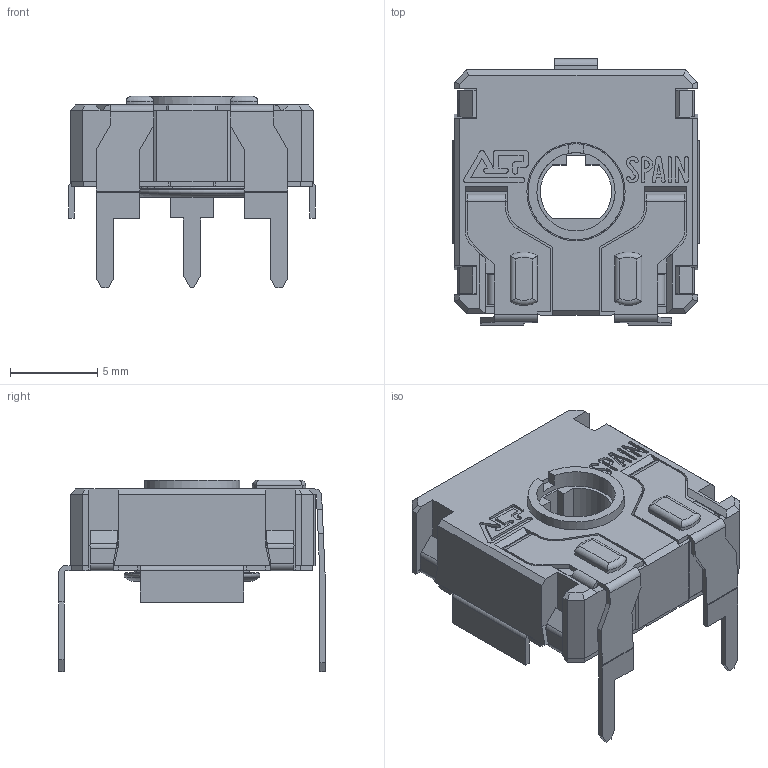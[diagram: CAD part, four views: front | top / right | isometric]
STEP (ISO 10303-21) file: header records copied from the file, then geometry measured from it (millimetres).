
FILE_DESCRIPTION(/* description */ (''),/* implementation_level */ '2;1');
FILE_NAME(/* name */ 'C:\Users\CEM\Desktop\ENVIAR\TRANSICION 3D CATALOGOS\CS14TV15 CFF.stp',/* time_stamp */ '2025-10-24T17:56:32+02:00',/* author */ ('CEM'),/* organization */ (''),/* preprocessor_version */ 'ST-DEVELOPER v17',/* originating_system */ 'Autodesk Inventor 2018',/* authorisation */ '');
FILE_SCHEMA (('AUTOMOTIVE_DESIGN { 1 0 10303 214 3 1 1 }'));
Length unit declared in the file: millimetre
Products named in the file (1): CS14TV15 CFF
Bounding box: 14.15 x 15.3 x 11 mm (x, y, z)
Volume: 556.7 mm3; surface area: 1665.8 mm2
Topology: 1 solids, 3 shells, 729 faces, 2042 edges, 1320 vertices
Faces by surface type: plane 550, cylinder 140, cone 17, torus 12, bspline 10
Full cylindrical faces by diameter (mm): 4.5 x1, 5.5 x1, 5.65 x1, 6.87 x1
Entity records: 24285 total; most frequent: CARTESIAN_POINT 4523, ORIENTED_EDGE 4084, DIRECTION 3796, EDGE_CURVE 2042, LINE 1610, VECTOR 1610, VERTEX_POINT 1320, AXIS2_PLACEMENT_3D 1093
